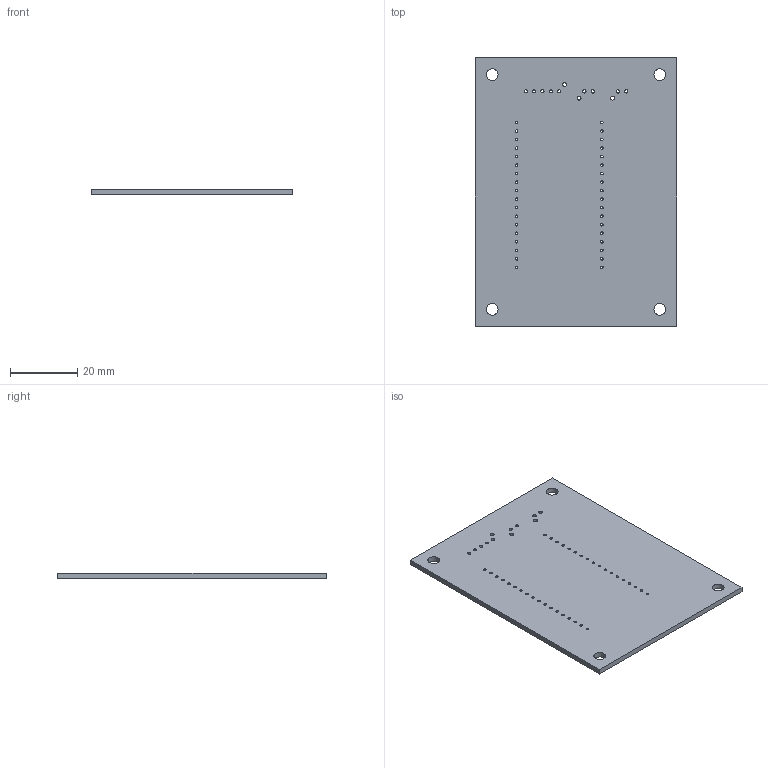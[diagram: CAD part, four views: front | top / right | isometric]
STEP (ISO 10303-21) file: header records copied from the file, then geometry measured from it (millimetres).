
FILE_DESCRIPTION(('KiCad electronic assembly'),'2;1');
FILE_NAME('pcb-thermo-bibli.step','2022-04-19T16:56:28',('An Author'),( 'A Company'),'Open CASCADE STEP processor 7.5', 'KiCad to STEP converter','Unknown');
FILE_SCHEMA(('AUTOMOTIVE_DESIGN { 1 0 10303 214 1 1 1 1 }'));
Length unit declared in the file: millimetre
Products named in the file (2): Open CASCADE STEP translator 7.5 1; COMPOUND
Assembly tree (1 placements, depth 2):
  Open CASCADE STEP translator 7.5 1
    COMPOUND
Bounding box: 60 x 80 x 1.6 mm (x, y, z)
Volume: 7576 mm3; surface area: 10188.4 mm2
Topology: 1 solids, 1 shells, 58 faces, 168 edges, 112 vertices
Faces by surface type: cylinder 52, plane 6
Full cylindrical faces by diameter (mm): 0.762 x36, 0.95 x5, 1 x4, 1.2 x3, 3.5 x4
Entity records: 4415 total; most frequent: DIRECTION 728, CARTESIAN_POINT 676, ORIENTED_EDGE 336, PCURVE 336, DEFINITIONAL_REPRESENTATION 336, LINE 296, VECTOR 296, CIRCLE 208
